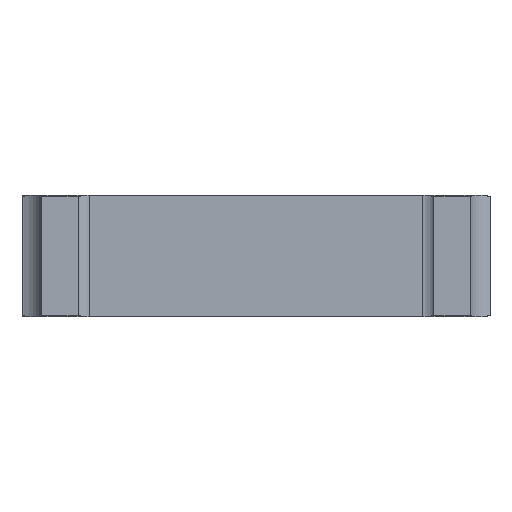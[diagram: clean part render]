
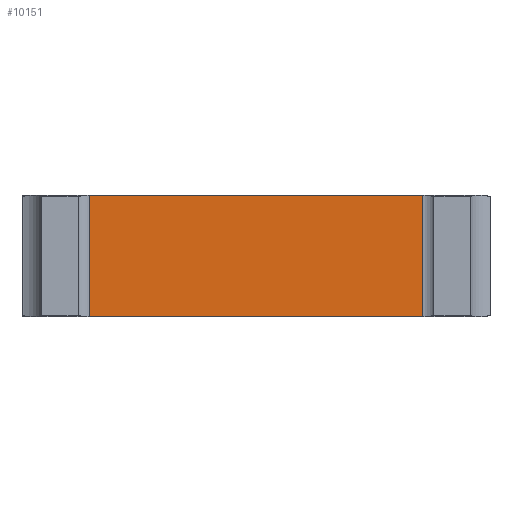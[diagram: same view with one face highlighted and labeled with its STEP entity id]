
A CAD part, left-side view. The second image highlights one B-rep face of the part: STEP entity #10151.
In plain terms, the highlighted planar face has unit normal (-1, 0, 0).
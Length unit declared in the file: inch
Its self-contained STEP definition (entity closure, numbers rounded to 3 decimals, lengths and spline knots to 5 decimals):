
#1206=FACE_OUTER_BOUND('',#1805,.T.);
#1805=EDGE_LOOP('',(#9045,#9046,#9047,#9048));
#2464=LINE('',#16634,#3501);
#2605=LINE('',#16972,#3642);
#2836=LINE('',#17558,#3873);
#2837=LINE('',#17560,#3874);
#3501=VECTOR('',#11672,0.3937);
#3642=VECTOR('',#11965,0.3937);
#3873=VECTOR('',#12526,0.3937);
#3874=VECTOR('',#12529,0.3937);
#4573=VERTEX_POINT('',#16631);
#4574=VERTEX_POINT('',#16633);
#4694=VERTEX_POINT('',#16969);
#4695=VERTEX_POINT('',#16971);
#5862=EDGE_CURVE('',#4573,#4574,#2464,.T.);
#6022=EDGE_CURVE('',#4694,#4695,#2605,.T.);
#6316=EDGE_CURVE('',#4695,#4573,#2836,.T.);
#6317=EDGE_CURVE('',#4694,#4574,#2837,.T.);
#9045=ORIENTED_EDGE('',*,*,#6316,.F.);
#9046=ORIENTED_EDGE('',*,*,#6022,.F.);
#9047=ORIENTED_EDGE('',*,*,#6317,.T.);
#9048=ORIENTED_EDGE('',*,*,#5862,.F.);
#9628=PLANE('',#10637);
#10151=ADVANCED_FACE('',(#1206),#9628,.T.);
#10637=AXIS2_PLACEMENT_3D('',#17559,#12527,#12528);
#11672=DIRECTION('',(0.,-1.,0.));
#11965=DIRECTION('',(0.,1.,0.));
#12526=DIRECTION('',(0.,0.,1.));
#12527=DIRECTION('center_axis',(-1.,0.,0.));
#12528=DIRECTION('ref_axis',(0.,1.,0.));
#12529=DIRECTION('',(0.,0.,1.));
#16631=CARTESIAN_POINT('',(-1.35867,0.60383,0.13));
#16633=CARTESIAN_POINT('',(-1.35867,-0.10817,0.13));
#16634=CARTESIAN_POINT('',(-1.35867,0.60383,0.13));
#16969=CARTESIAN_POINT('',(-1.35867,-0.10817,-0.1301));
#16971=CARTESIAN_POINT('',(-1.35867,0.60383,-0.1301));
#16972=CARTESIAN_POINT('',(-1.35867,-0.10817,-0.1301));
#17558=CARTESIAN_POINT('',(-1.35867,0.60383,0.1272));
#17559=CARTESIAN_POINT('Origin',(-1.35867,-0.10817,0.1272));
#17560=CARTESIAN_POINT('',(-1.35867,-0.10817,0.1272));
